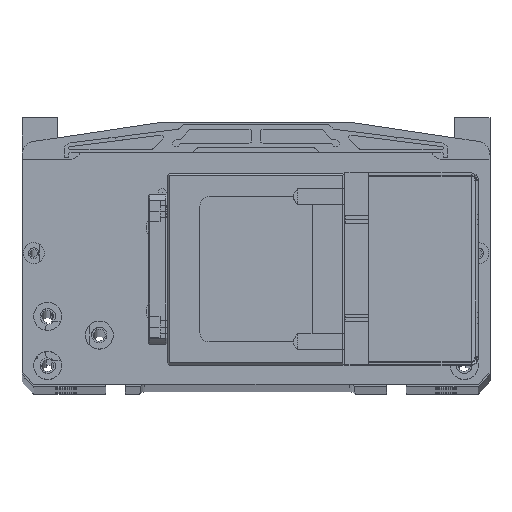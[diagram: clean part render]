
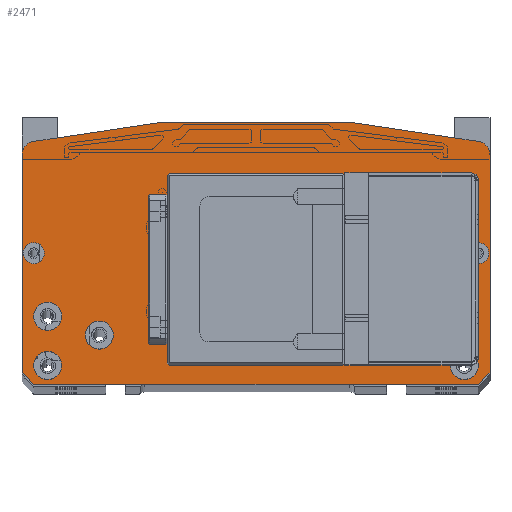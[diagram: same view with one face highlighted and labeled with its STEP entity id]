
A CAD part, top view. The second image highlights one B-rep face of the part: STEP entity #2471.
In plain terms, the highlighted planar face has unit normal (0, 0, 1).
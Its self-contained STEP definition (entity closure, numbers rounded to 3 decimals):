
#596=FACE_BOUND('',#4971,.T.);
#597=FACE_BOUND('',#4972,.T.);
#598=FACE_BOUND('',#4973,.T.);
#599=FACE_BOUND('',#4974,.T.);
#600=FACE_BOUND('',#4975,.T.);
#601=FACE_BOUND('',#4976,.T.);
#602=FACE_BOUND('',#4977,.T.);
#603=FACE_BOUND('',#4978,.T.);
#604=FACE_BOUND('',#4979,.T.);
#605=FACE_BOUND('',#4980,.T.);
#606=FACE_BOUND('',#4981,.T.);
#607=FACE_BOUND('',#4982,.T.);
#608=FACE_BOUND('',#4983,.T.);
#2471=ADVANCED_FACE('',(#596,#597,#598,#599,#600,#601,#602,#603,#604,#605,
#606,#607,#608),#3140,.F.);
#3140=PLANE('',#20658);
#4971=EDGE_LOOP('',(#9980,#9981,#9982,#9983));
#4972=EDGE_LOOP('',(#9984,#9985,#9986,#9987));
#4973=EDGE_LOOP('',(#9988));
#4974=EDGE_LOOP('',(#9989));
#4975=EDGE_LOOP('',(#9990,#9991,#9992,#9993,#9994,#9995,#9996,#9997,#9998,
#9999));
#4976=EDGE_LOOP('',(#10000));
#4977=EDGE_LOOP('',(#10001));
#4978=EDGE_LOOP('',(#10002));
#4979=EDGE_LOOP('',(#10003));
#4980=EDGE_LOOP('',(#10004));
#4981=EDGE_LOOP('',(#10005));
#4982=EDGE_LOOP('',(#10006));
#4983=EDGE_LOOP('',(#10007));
#6126=CIRCLE('',#20540,1.65);
#6141=CIRCLE('',#20569,1.65);
#6146=CIRCLE('',#20583,6.);
#6153=CIRCLE('',#20597,6.);
#6154=CIRCLE('',#20600,4.5);
#6158=CIRCLE('',#20607,4.5);
#6162=CIRCLE('',#20614,6.);
#6166=CIRCLE('',#20621,6.);
#6170=CIRCLE('',#20628,6.);
#6174=CIRCLE('',#20635,6.);
#6178=CIRCLE('',#20642,6.);
#6182=CIRCLE('',#20649,6.);
#9980=ORIENTED_EDGE('',*,*,#15761,.F.);
#9981=ORIENTED_EDGE('',*,*,#15762,.F.);
#9982=ORIENTED_EDGE('',*,*,#15763,.T.);
#9983=ORIENTED_EDGE('',*,*,#15764,.T.);
#9984=ORIENTED_EDGE('',*,*,#15604,.T.);
#9985=ORIENTED_EDGE('',*,*,#15607,.T.);
#9986=ORIENTED_EDGE('',*,*,#15627,.T.);
#9987=ORIENTED_EDGE('',*,*,#15600,.T.);
#9988=ORIENTED_EDGE('',*,*,#15662,.T.);
#9989=ORIENTED_EDGE('',*,*,#15690,.T.);
#9990=ORIENTED_EDGE('',*,*,#15695,.F.);
#9991=ORIENTED_EDGE('',*,*,#14537,.T.);
#9992=ORIENTED_EDGE('',*,*,#15727,.F.);
#9993=ORIENTED_EDGE('',*,*,#14561,.T.);
#9994=ORIENTED_EDGE('',*,*,#15726,.F.);
#9995=ORIENTED_EDGE('',*,*,#15697,.F.);
#9996=ORIENTED_EDGE('',*,*,#15703,.T.);
#9997=ORIENTED_EDGE('',*,*,#15706,.F.);
#9998=ORIENTED_EDGE('',*,*,#15707,.F.);
#9999=ORIENTED_EDGE('',*,*,#14243,.T.);
#10000=ORIENTED_EDGE('',*,*,#15757,.T.);
#10001=ORIENTED_EDGE('',*,*,#15753,.T.);
#10002=ORIENTED_EDGE('',*,*,#15749,.T.);
#10003=ORIENTED_EDGE('',*,*,#15745,.T.);
#10004=ORIENTED_EDGE('',*,*,#15741,.T.);
#10005=ORIENTED_EDGE('',*,*,#15737,.T.);
#10006=ORIENTED_EDGE('',*,*,#15733,.T.);
#10007=ORIENTED_EDGE('',*,*,#15729,.T.);
#12270=VERTEX_POINT('',#29940);
#12271=VERTEX_POINT('',#29942);
#12448=VERTEX_POINT('',#31088);
#12449=VERTEX_POINT('',#31090);
#12458=VERTEX_POINT('',#31133);
#12459=VERTEX_POINT('',#31135);
#13141=VERTEX_POINT('',#35128);
#13145=VERTEX_POINT('',#35137);
#13148=VERTEX_POINT('',#35145);
#13150=VERTEX_POINT('',#35151);
#13191=VERTEX_POINT('',#35285);
#13208=VERTEX_POINT('',#35344);
#13215=VERTEX_POINT('',#35364);
#13216=VERTEX_POINT('',#35365);
#13220=VERTEX_POINT('',#35375);
#13222=VERTEX_POINT('',#35381);
#13229=VERTEX_POINT('',#35422);
#13232=VERTEX_POINT('',#35432);
#13235=VERTEX_POINT('',#35442);
#13238=VERTEX_POINT('',#35452);
#13241=VERTEX_POINT('',#35462);
#13244=VERTEX_POINT('',#35472);
#13247=VERTEX_POINT('',#35482);
#13250=VERTEX_POINT('',#35492);
#13253=VERTEX_POINT('',#35504);
#13254=VERTEX_POINT('',#35505);
#13255=VERTEX_POINT('',#35507);
#13256=VERTEX_POINT('',#35509);
#14243=EDGE_CURVE('',#12271,#12270,#16611,.T.);
#14537=EDGE_CURVE('',#12449,#12448,#16807,.T.);
#14561=EDGE_CURVE('',#12459,#12458,#16827,.T.);
#15600=EDGE_CURVE('',#13141,#13145,#17432,.T.);
#15604=EDGE_CURVE('',#13145,#13148,#17436,.T.);
#15607=EDGE_CURVE('',#13148,#13150,#17439,.T.);
#15627=EDGE_CURVE('',#13150,#13141,#17459,.T.);
#15662=EDGE_CURVE('',#13191,#13191,#6126,.T.);
#15690=EDGE_CURVE('',#13208,#13208,#6141,.T.);
#15695=EDGE_CURVE('',#12449,#12270,#17479,.T.);
#15697=EDGE_CURVE('',#13215,#13216,#17481,.T.);
#15703=EDGE_CURVE('',#13215,#13220,#17487,.T.);
#15706=EDGE_CURVE('',#13222,#13220,#17490,.T.);
#15707=EDGE_CURVE('',#12271,#13222,#6146,.T.);
#15726=EDGE_CURVE('',#13216,#12458,#6153,.T.);
#15727=EDGE_CURVE('',#12459,#12448,#17503,.T.);
#15729=EDGE_CURVE('',#13229,#13229,#6154,.T.);
#15733=EDGE_CURVE('',#13232,#13232,#6158,.T.);
#15737=EDGE_CURVE('',#13235,#13235,#6162,.T.);
#15741=EDGE_CURVE('',#13238,#13238,#6166,.T.);
#15745=EDGE_CURVE('',#13241,#13241,#6170,.T.);
#15749=EDGE_CURVE('',#13244,#13244,#6174,.T.);
#15753=EDGE_CURVE('',#13247,#13247,#6178,.T.);
#15757=EDGE_CURVE('',#13250,#13250,#6182,.T.);
#15761=EDGE_CURVE('',#13253,#13254,#17505,.T.);
#15762=EDGE_CURVE('',#13255,#13253,#17506,.T.);
#15763=EDGE_CURVE('',#13255,#13256,#17507,.T.);
#15764=EDGE_CURVE('',#13256,#13254,#17508,.T.);
#16611=LINE('',#29941,#18075);
#16807=LINE('',#31089,#18271);
#16827=LINE('',#31134,#18291);
#17432=LINE('',#35138,#18896);
#17436=LINE('',#35146,#18900);
#17439=LINE('',#35152,#18903);
#17459=LINE('',#35188,#18923);
#17479=LINE('',#35360,#18943);
#17481=LINE('',#35363,#18945);
#17487=LINE('',#35376,#18951);
#17490=LINE('',#35382,#18954);
#17503=LINE('',#35418,#18967);
#17505=LINE('',#35503,#18969);
#17506=LINE('',#35506,#18970);
#17507=LINE('',#35508,#18971);
#17508=LINE('',#35510,#18972);
#18075=VECTOR('',#22150,1.);
#18271=VECTOR('',#22618,1.);
#18291=VECTOR('',#22668,1.);
#18896=VECTOR('',#24721,1.);
#18900=VECTOR('',#24727,1.);
#18903=VECTOR('',#24732,1.);
#18923=VECTOR('',#24764,1.);
#18943=VECTOR('',#24980,1.);
#18945=VECTOR('',#24984,1.);
#18951=VECTOR('',#24992,1.);
#18954=VECTOR('',#24997,1.);
#18967=VECTOR('',#25044,1.);
#18969=VECTOR('',#25164,1.);
#18970=VECTOR('',#25165,1.);
#18971=VECTOR('',#25166,1.);
#18972=VECTOR('',#25167,1.);
#20540=AXIS2_PLACEMENT_3D('',#35284,#24889,#24890);
#20569=AXIS2_PLACEMENT_3D('',#35343,#24960,#24961);
#20583=AXIS2_PLACEMENT_3D('',#35384,#25000,#25001);
#20597=AXIS2_PLACEMENT_3D('',#35416,#25040,#25041);
#20600=AXIS2_PLACEMENT_3D('',#35421,#25048,#25049);
#20607=AXIS2_PLACEMENT_3D('',#35431,#25062,#25063);
#20614=AXIS2_PLACEMENT_3D('',#35441,#25076,#25077);
#20621=AXIS2_PLACEMENT_3D('',#35451,#25090,#25091);
#20628=AXIS2_PLACEMENT_3D('',#35461,#25104,#25105);
#20635=AXIS2_PLACEMENT_3D('',#35471,#25118,#25119);
#20642=AXIS2_PLACEMENT_3D('',#35481,#25132,#25133);
#20649=AXIS2_PLACEMENT_3D('',#35491,#25146,#25147);
#20658=AXIS2_PLACEMENT_3D('',#35511,#25168,#25169);
#22150=DIRECTION('',(0.,-1.,0.));
#22618=DIRECTION('',(1.,0.,0.));
#22668=DIRECTION('',(0.,1.,0.));
#24721=DIRECTION('',(0.,1.,0.));
#24727=DIRECTION('',(1.,0.,0.));
#24732=DIRECTION('',(0.,-1.,0.));
#24764=DIRECTION('',(-1.,0.,0.));
#24889=DIRECTION('',(0.,0.,-1.));
#24890=DIRECTION('',(1.,0.,0.));
#24960=DIRECTION('',(0.,0.,-1.));
#24961=DIRECTION('',(1.,0.,0.));
#24980=DIRECTION('',(-0.707,0.707,0.));
#24984=DIRECTION('',(0.989,-0.148,0.));
#24992=DIRECTION('',(-1.,0.,0.));
#24997=DIRECTION('',(0.989,0.148,0.));
#25000=DIRECTION('',(0.,0.,-1.));
#25001=DIRECTION('',(-1.,0.,0.));
#25040=DIRECTION('',(0.,0.,-1.));
#25041=DIRECTION('',(0.148,0.989,0.));
#25044=DIRECTION('',(-0.707,-0.707,0.));
#25048=DIRECTION('',(0.,0.,-1.));
#25049=DIRECTION('',(1.,0.,0.));
#25062=DIRECTION('',(0.,0.,-1.));
#25063=DIRECTION('',(1.,0.,0.));
#25076=DIRECTION('',(0.,0.,-1.));
#25077=DIRECTION('',(1.,0.,0.));
#25090=DIRECTION('',(0.,0.,-1.));
#25091=DIRECTION('',(1.,0.,0.));
#25104=DIRECTION('',(0.,0.,-1.));
#25105=DIRECTION('',(1.,0.,0.));
#25118=DIRECTION('',(0.,0.,-1.));
#25119=DIRECTION('',(1.,0.,0.));
#25132=DIRECTION('',(0.,0.,-1.));
#25133=DIRECTION('',(1.,0.,0.));
#25146=DIRECTION('',(0.,0.,-1.));
#25147=DIRECTION('',(1.,0.,0.));
#25164=DIRECTION('',(1.,0.,0.));
#25165=DIRECTION('',(0.,-1.,0.));
#25166=DIRECTION('',(1.,0.,0.));
#25167=DIRECTION('',(0.,-1.,0.));
#25168=DIRECTION('',(0.,0.,-1.));
#25169=DIRECTION('',(-1.,0.,0.));
#29940=CARTESIAN_POINT('',(-100.,7.,463.));
#29941=CARTESIAN_POINT('',(-100.,99.833,463.));
#29942=CARTESIAN_POINT('',(-100.,99.833,463.));
#31088=CARTESIAN_POINT('',(95.,2.,463.));
#31089=CARTESIAN_POINT('',(67.5,2.,463.));
#31090=CARTESIAN_POINT('',(-95.,2.,463.));
#31133=CARTESIAN_POINT('',(100.,99.833,463.));
#31134=CARTESIAN_POINT('',(100.,7.,463.));
#31135=CARTESIAN_POINT('',(100.,7.,463.));
#35128=CARTESIAN_POINT('',(-37.,11.,463.));
#35137=CARTESIAN_POINT('',(-37.,91.,463.));
#35138=CARTESIAN_POINT('',(-37.,11.,463.));
#35145=CARTESIAN_POINT('',(37.,91.,463.));
#35146=CARTESIAN_POINT('',(-37.,91.,463.));
#35151=CARTESIAN_POINT('',(37.,11.,463.));
#35152=CARTESIAN_POINT('',(37.,91.,463.));
#35188=CARTESIAN_POINT('',(37.,11.,463.));
#35284=CARTESIAN_POINT('',(42.,69.,463.));
#35285=CARTESIAN_POINT('',(43.65,69.,463.));
#35343=CARTESIAN_POINT('',(42.,33.,463.));
#35344=CARTESIAN_POINT('',(43.65,33.,463.));
#35360=CARTESIAN_POINT('',(-95.,2.,463.));
#35363=CARTESIAN_POINT('',(40.,114.,463.));
#35364=CARTESIAN_POINT('',(40.,114.,463.));
#35365=CARTESIAN_POINT('',(94.89,105.766,463.));
#35375=CARTESIAN_POINT('',(-40.,114.,463.));
#35376=CARTESIAN_POINT('',(40.,114.,463.));
#35381=CARTESIAN_POINT('',(-94.89,105.766,463.));
#35382=CARTESIAN_POINT('',(-94.89,105.766,463.));
#35384=CARTESIAN_POINT('',(-94.,99.833,463.));
#35416=CARTESIAN_POINT('',(94.,99.833,463.));
#35418=CARTESIAN_POINT('',(100.,7.,463.));
#35421=CARTESIAN_POINT('',(-95.,58.,463.));
#35422=CARTESIAN_POINT('',(-90.5,58.,463.));
#35431=CARTESIAN_POINT('',(95.,58.,463.));
#35432=CARTESIAN_POINT('',(99.5,58.,463.));
#35441=CARTESIAN_POINT('',(-67.,23.,463.));
#35442=CARTESIAN_POINT('',(-61.,23.,463.));
#35451=CARTESIAN_POINT('',(67.,23.,463.));
#35452=CARTESIAN_POINT('',(73.,23.,463.));
#35461=CARTESIAN_POINT('',(-89.,31.,463.));
#35462=CARTESIAN_POINT('',(-83.,31.,463.));
#35471=CARTESIAN_POINT('',(89.,31.,463.));
#35472=CARTESIAN_POINT('',(95.,31.,463.));
#35481=CARTESIAN_POINT('',(-89.,10.,463.));
#35482=CARTESIAN_POINT('',(-83.,10.,463.));
#35491=CARTESIAN_POINT('',(89.,10.,463.));
#35492=CARTESIAN_POINT('',(95.,10.,463.));
#35503=CARTESIAN_POINT('',(-45.5,21.534,463.));
#35504=CARTESIAN_POINT('',(-45.5,21.534,463.));
#35505=CARTESIAN_POINT('',(-38.5,21.534,463.));
#35506=CARTESIAN_POINT('',(-45.5,80.466,463.));
#35507=CARTESIAN_POINT('',(-45.5,80.466,463.));
#35508=CARTESIAN_POINT('',(-45.5,80.466,463.));
#35509=CARTESIAN_POINT('',(-38.5,80.466,463.));
#35510=CARTESIAN_POINT('',(-38.5,80.466,463.));
#35511=CARTESIAN_POINT('',(0.,2.,463.));
